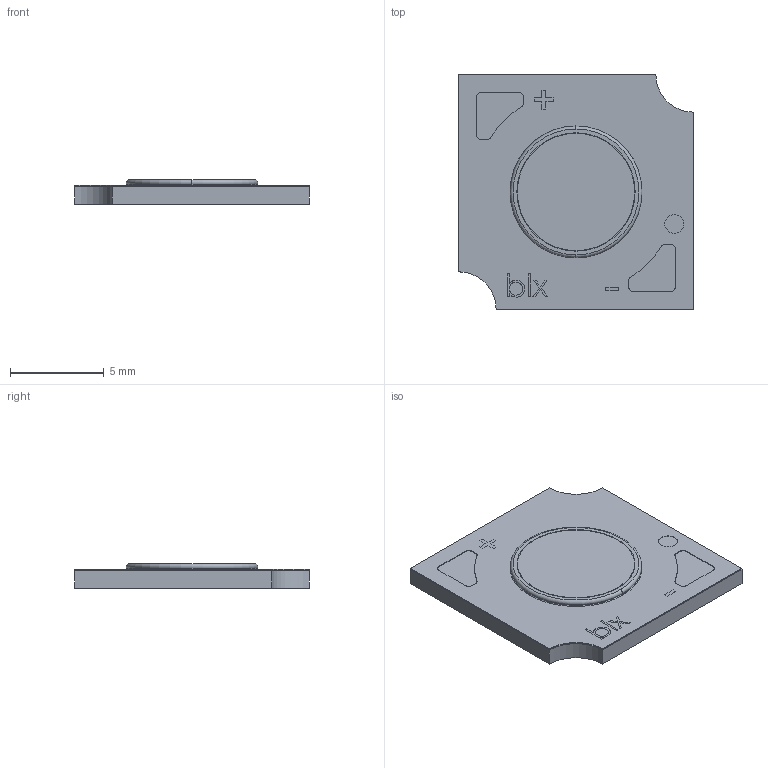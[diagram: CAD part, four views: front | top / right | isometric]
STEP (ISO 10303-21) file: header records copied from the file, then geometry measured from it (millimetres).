
FILE_DESCRIPTION (( 'STEP AP214' ), '1' );
FILE_NAME ('GEN8 V6 Assembly.STEP', '2020-09-09T06:56:28', ( '' ), ( '' ), 'SwSTEP 2.0', 'SolidWorks 2018', '' );
FILE_SCHEMA (( 'AUTOMOTIVE_DESIGN' ));
Length unit declared in the file: millimetre
Products named in the file (1): GEN8 V6 Assembly
Bounding box: 12.5 x 12.5 x 1.29 mm (x, y, z)
Volume: 155.7 mm3; surface area: 586.8 mm2
Topology: 1 solids, 1 shells, 148 faces, 346 edges, 221 vertices
Faces by surface type: plane 74, cylinder 68, torus 6
Entity records: 5209 total; most frequent: CARTESIAN_POINT 970, DIRECTION 778, ORIENTED_EDGE 692, EDGE_CURVE 346, AXIS2_PLACEMENT_3D 299, VERTEX_POINT 221, VECTOR 180, LINE 180
